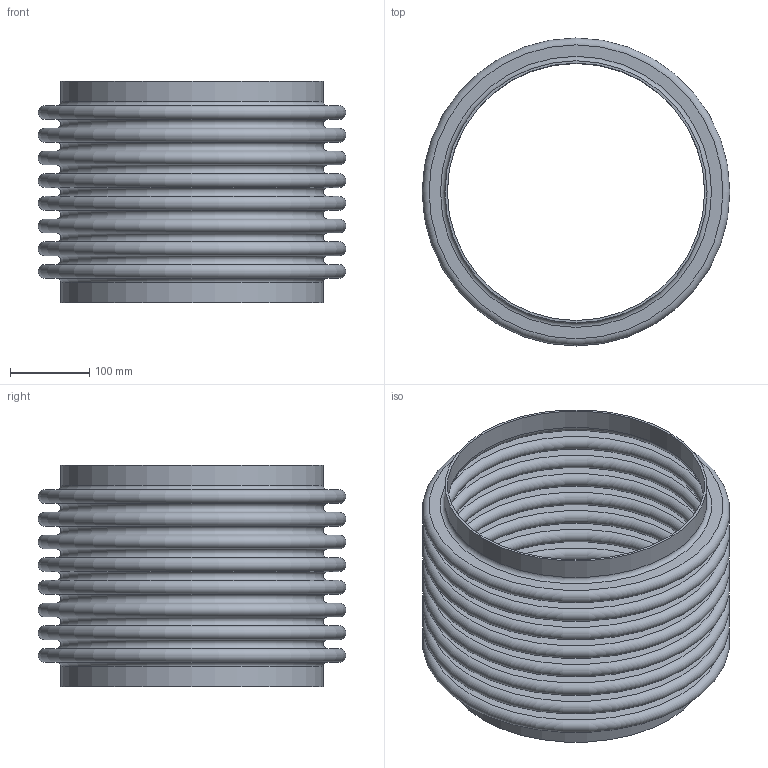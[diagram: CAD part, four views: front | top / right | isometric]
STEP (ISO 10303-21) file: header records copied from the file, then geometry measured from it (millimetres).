
FILE_DESCRIPTION(/* description */ ('STOCK BELLOWS: U.S-12-8-300S, 12.750 I.D., 15.250 O.D., 2 PLY, 16 GA (0.060 THICK), 8 CONS., 1.125 PITCH, 1.000 TANGENT. '),/* implementation_level */ '2;1');
FILE_NAME(/* name */ 'STOCK BELLOW - US-12-8-300S.stp',/* time_stamp */ '2026-07-21T13:28:40-05:00',/* author */ ('KennethB'),/* organization */ (''),/* preprocessor_version */ 'ST-DEVELOPER v20.1',/* originating_system */ 'Autodesk Inventor 2026',/* authorisation */ '');
FILE_SCHEMA (('AUTOMOTIVE_DESIGN { 1 0 10303 214 3 1 1 }'));
Length unit declared in the file: inch
Products named in the file (1): STOCK BELLOW - US-12-8-300S
Bounding box: 387.35 x 387.35 x 279.4 mm (x, y, z)
Volume: 2167042.9 mm3; surface area: 1440725.6 mm2
Topology: 3 solids, 3 shells, 76 faces, 114 edges, 77 vertices
Faces by surface type: plane 38, torus 34, cylinder 4
Full cylindrical faces by diameter (mm): 323.85 x2, 329.946 x2
Entity records: 1814 total; most frequent: DIRECTION 378, CARTESIAN_POINT 268, ORIENTED_EDGE 228, AXIS2_PLACEMENT_3D 187, EDGE_LOOP 114, EDGE_CURVE 114, CIRCLE 110, FACE_OUTER_BOUND 76
